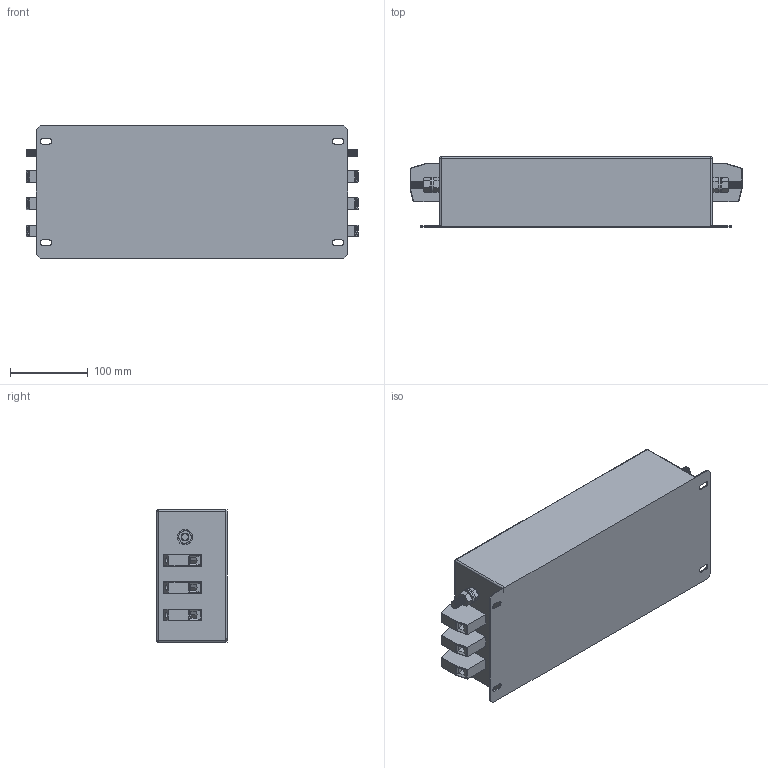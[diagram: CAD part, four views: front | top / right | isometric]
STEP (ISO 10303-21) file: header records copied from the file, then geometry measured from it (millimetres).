
FILE_DESCRIPTION (( 'STEP AP203' ), '1' );
FILE_NAME ('NF-80.STEP', '2021-11-03T17:46:20', ( '' ), ( '' ), 'SwSTEP 2.0', 'SolidWorks 2017', '' );
FILE_SCHEMA (( 'CONFIG_CONTROL_DESIGN' ));
Length unit declared in the file: millimetre
Products named in the file (7): flat washer narrow_am_B18.22M - Plain washer, 10 mm, narrow; NF-80; FSH-4b; hex nut style 1_am_B18.2.4.1M - Hex nut, Style 1,  M10 x 1.5, with 16mm WAF --D-N; hex screw_am_B18.6.7M - M10 x 1.5 x 30 Indented HHMS --30S; HDFK-25; M10x30 Earth post
Assembly tree (13 placements, depth 3):
  NF-80
    FSH-4b
    M10x30 Earth post  x2
      flat washer narrow_am_B18.22M - Plain washer, 10 mm, narrow
      hex nut style 1_am_B18.2.4.1M - Hex nut, Style 1,  M10 x 1.5, with 16mm WAF --D-N
      hex screw_am_B18.6.7M - M10 x 1.5 x 30 Indented HHMS --30S
    HDFK-25  x6
Bounding box: 426.01 x 90 x 170 mm (x, y, z)
Volume: 5348603.2 mm3; surface area: 368336.3 mm2
Topology: 15 solids, 15 shells, 858 faces, 2064 edges, 1272 vertices
Faces by surface type: plane 468, cone 212, cylinder 174, sphere 4
Entity records: 10420 total; most frequent: CARTESIAN_POINT 1793, DIRECTION 1713, ORIENTED_EDGE 1554, EDGE_CURVE 777, AXIS2_PLACEMENT_3D 644, VERTEX_POINT 484, LINE 425, VECTOR 425
